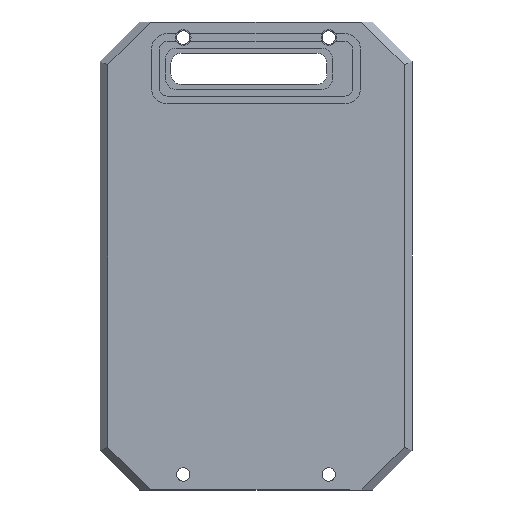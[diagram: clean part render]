
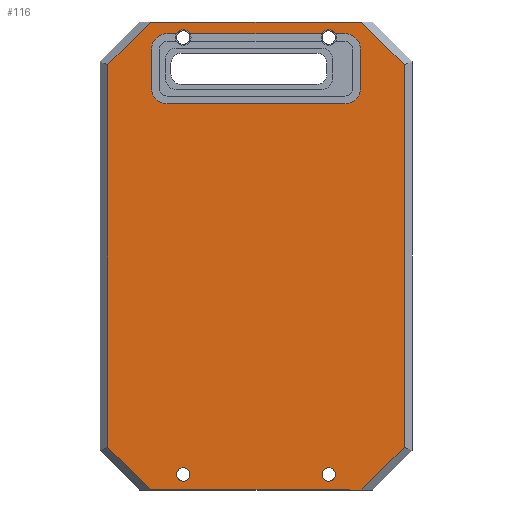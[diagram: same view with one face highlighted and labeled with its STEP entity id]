
A CAD part, front view. The second image highlights one B-rep face of the part: STEP entity #116.
In plain terms, the highlighted planar face has unit normal (0, -1, 0).
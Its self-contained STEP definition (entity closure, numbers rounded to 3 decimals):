
#116=ADVANCED_FACE('',(#414,#415,#416,#265),#1413,.T.);
#265=FACE_OUTER_BOUND('',#428,.F.);
#414=FACE_BOUND('',#425,.F.);
#415=FACE_BOUND('',#426,.F.);
#416=FACE_BOUND('',#427,.F.);
#425=EDGE_LOOP('',(#643,#644));
#426=EDGE_LOOP('',(#645,#646));
#427=EDGE_LOOP('',(#647,#648,#649,#650,#651,#652,#653,#654,#655,#656,#657,
#658));
#428=EDGE_LOOP('',(#659,#660,#661,#662,#663,#664,#665,#666));
#643=ORIENTED_EDGE('',*,*,#2155,.T.);
#644=ORIENTED_EDGE('',*,*,#2154,.T.);
#645=ORIENTED_EDGE('',*,*,#2157,.T.);
#646=ORIENTED_EDGE('',*,*,#2156,.T.);
#647=ORIENTED_EDGE('',*,*,#2058,.T.);
#648=ORIENTED_EDGE('',*,*,#2068,.T.);
#649=ORIENTED_EDGE('',*,*,#2066,.T.);
#650=ORIENTED_EDGE('',*,*,#2070,.T.);
#651=ORIENTED_EDGE('',*,*,#2067,.T.);
#652=ORIENTED_EDGE('',*,*,#2065,.T.);
#653=ORIENTED_EDGE('',*,*,#2064,.T.);
#654=ORIENTED_EDGE('',*,*,#2063,.T.);
#655=ORIENTED_EDGE('',*,*,#2062,.T.);
#656=ORIENTED_EDGE('',*,*,#2061,.T.);
#657=ORIENTED_EDGE('',*,*,#2060,.T.);
#658=ORIENTED_EDGE('',*,*,#2059,.T.);
#659=ORIENTED_EDGE('',*,*,#2187,.T.);
#660=ORIENTED_EDGE('',*,*,#2224,.T.);
#661=ORIENTED_EDGE('',*,*,#2189,.T.);
#662=ORIENTED_EDGE('',*,*,#2178,.T.);
#663=ORIENTED_EDGE('',*,*,#2176,.T.);
#664=ORIENTED_EDGE('',*,*,#2223,.T.);
#665=ORIENTED_EDGE('',*,*,#2182,.T.);
#666=ORIENTED_EDGE('',*,*,#2184,.T.);
#1413=PLANE('',#3020);
#1506=LINE('',#4313,#1778);
#1507=LINE('',#4315,#1779);
#1508=LINE('',#4317,#1780);
#1509=LINE('',#4319,#1781);
#1510=LINE('',#4321,#1782);
#1511=LINE('',#4322,#1783);
#1552=LINE('',#4431,#1824);
#1554=LINE('',#4433,#1826);
#1558=LINE('',#4437,#1830);
#1560=LINE('',#4439,#1832);
#1563=LINE('',#4442,#1835);
#1565=LINE('',#4444,#1837);
#1591=LINE('',#4478,#1863);
#1592=LINE('',#4479,#1864);
#1778=VECTOR('',#3192,1.801);
#1779=VECTOR('',#3195,7.5);
#1780=VECTOR('',#3198,34.2);
#1781=VECTOR('',#3201,7.5);
#1782=VECTOR('',#3204,25.402);
#1783=VECTOR('',#3205,1.801);
#1824=VECTOR('',#3382,11.655);
#1826=VECTOR('',#3384,73.517);
#1830=VECTOR('',#3388,11.655);
#1832=VECTOR('',#3390,73.517);
#1835=VECTOR('',#3393,11.655);
#1837=VECTOR('',#3395,11.655);
#1863=VECTOR('',#3437,40.517);
#1864=VECTOR('',#3438,40.517);
#2058=EDGE_CURVE('',#2855,#2854,#1506,.T.);
#2059=EDGE_CURVE('',#2853,#2855,#2468,.T.);
#2060=EDGE_CURVE('',#2852,#2853,#1507,.T.);
#2061=EDGE_CURVE('',#2851,#2852,#2469,.T.);
#2062=EDGE_CURVE('',#2850,#2851,#1508,.T.);
#2063=EDGE_CURVE('',#2849,#2850,#2470,.T.);
#2064=EDGE_CURVE('',#2848,#2849,#1509,.T.);
#2065=EDGE_CURVE('',#2847,#2848,#2471,.T.);
#2066=EDGE_CURVE('',#2846,#2845,#1510,.T.);
#2067=EDGE_CURVE('',#2844,#2847,#1511,.T.);
#2068=EDGE_CURVE('',#2854,#2846,#2472,.T.);
#2070=EDGE_CURVE('',#2845,#2844,#2474,.T.);
#2154=EDGE_CURVE('',#2759,#2758,#2528,.T.);
#2155=EDGE_CURVE('',#2758,#2759,#2529,.T.);
#2156=EDGE_CURVE('',#2757,#2756,#2530,.T.);
#2157=EDGE_CURVE('',#2756,#2757,#2531,.T.);
#2176=EDGE_CURVE('',#2739,#2737,#1552,.T.);
#2178=EDGE_CURVE('',#2735,#2739,#1554,.T.);
#2182=EDGE_CURVE('',#2730,#2732,#1558,.T.);
#2184=EDGE_CURVE('',#2732,#2728,#1560,.T.);
#2187=EDGE_CURVE('',#2728,#2727,#1563,.T.);
#2189=EDGE_CURVE('',#2724,#2735,#1565,.T.);
#2223=EDGE_CURVE('',#2737,#2730,#1591,.T.);
#2224=EDGE_CURVE('',#2727,#2724,#1592,.T.);
#2468=CIRCLE('',#2882,3.);
#2469=CIRCLE('',#2883,3.);
#2470=CIRCLE('',#2884,3.);
#2471=CIRCLE('',#2885,3.);
#2472=CIRCLE('',#2886,1.5);
#2474=CIRCLE('',#2888,1.5);
#2528=CIRCLE('',#2942,1.3);
#2529=CIRCLE('',#2943,1.3);
#2530=CIRCLE('',#2944,1.3);
#2531=CIRCLE('',#2945,1.3);
#2724=VERTEX_POINT('',#4151);
#2727=VERTEX_POINT('',#4154);
#2728=VERTEX_POINT('',#4155);
#2730=VERTEX_POINT('',#4157);
#2732=VERTEX_POINT('',#4159);
#2735=VERTEX_POINT('',#4162);
#2737=VERTEX_POINT('',#4164);
#2739=VERTEX_POINT('',#4166);
#2756=VERTEX_POINT('',#4183);
#2757=VERTEX_POINT('',#4184);
#2758=VERTEX_POINT('',#4185);
#2759=VERTEX_POINT('',#4186);
#2844=VERTEX_POINT('',#4271);
#2845=VERTEX_POINT('',#4272);
#2846=VERTEX_POINT('',#4273);
#2847=VERTEX_POINT('',#4274);
#2848=VERTEX_POINT('',#4275);
#2849=VERTEX_POINT('',#4276);
#2850=VERTEX_POINT('',#4277);
#2851=VERTEX_POINT('',#4278);
#2852=VERTEX_POINT('',#4279);
#2853=VERTEX_POINT('',#4280);
#2854=VERTEX_POINT('',#4281);
#2855=VERTEX_POINT('',#4282);
#2882=AXIS2_PLACEMENT_3D('',#4314,#3193,#3194);
#2883=AXIS2_PLACEMENT_3D('',#4316,#3196,#3197);
#2884=AXIS2_PLACEMENT_3D('',#4318,#3199,#3200);
#2885=AXIS2_PLACEMENT_3D('',#4320,#3202,#3203);
#2886=AXIS2_PLACEMENT_3D('',#4323,#3206,#3207);
#2888=AXIS2_PLACEMENT_3D('',#4325,#3210,#3211);
#2942=AXIS2_PLACEMENT_3D('',#4409,#3348,#3349);
#2943=AXIS2_PLACEMENT_3D('',#4410,#3350,#3351);
#2944=AXIS2_PLACEMENT_3D('',#4411,#3352,#3353);
#2945=AXIS2_PLACEMENT_3D('',#4412,#3354,#3355);
#3020=AXIS2_PLACEMENT_3D('',#4717,#3734,#3735);
#3192=DIRECTION('',(-1.,0.,0.));
#3193=DIRECTION('',(0.,-1.,0.));
#3194=DIRECTION('',(1.,0.,0.));
#3195=DIRECTION('',(0.,0.,1.));
#3196=DIRECTION('',(0.,-1.,0.));
#3197=DIRECTION('',(0.,0.,-1.));
#3198=DIRECTION('',(1.,0.,0.));
#3199=DIRECTION('',(0.,-1.,0.));
#3200=DIRECTION('',(-1.,0.,0.));
#3201=DIRECTION('',(0.,0.,-1.));
#3202=DIRECTION('',(0.,-1.,0.));
#3203=DIRECTION('',(0.,0.,1.));
#3204=DIRECTION('',(-1.,0.,0.));
#3205=DIRECTION('',(-1.,0.,0.));
#3206=DIRECTION('',(0.,-1.,0.));
#3207=DIRECTION('',(0.866,0.,0.5));
#3210=DIRECTION('',(0.,-1.,0.));
#3211=DIRECTION('',(0.866,0.,0.5));
#3348=DIRECTION('',(0.,-1.,0.));
#3349=DIRECTION('',(0.,0.,-1.));
#3350=DIRECTION('',(0.,-1.,0.));
#3351=DIRECTION('',(0.,0.,1.));
#3352=DIRECTION('',(0.,-1.,0.));
#3353=DIRECTION('',(0.,0.,-1.));
#3354=DIRECTION('',(0.,-1.,0.));
#3355=DIRECTION('',(0.,0.,1.));
#3382=DIRECTION('',(0.707,0.,0.707));
#3384=DIRECTION('',(0.,0.,1.));
#3388=DIRECTION('',(0.707,0.,-0.707));
#3390=DIRECTION('',(0.,0.,-1.));
#3393=DIRECTION('',(-0.707,0.,-0.707));
#3395=DIRECTION('',(-0.707,0.,0.707));
#3437=DIRECTION('',(1.,0.,0.));
#3438=DIRECTION('',(-1.,0.,0.));
#3734=DIRECTION('',(0.,-1.,0.));
#3735=DIRECTION('',(-1.,0.,0.));
#4151=CARTESIAN_POINT('',(-15.502,119.805,-65.027));
#4154=CARTESIAN_POINT('',(25.015,119.805,-65.027));
#4155=CARTESIAN_POINT('',(33.257,119.805,-56.786));
#4157=CARTESIAN_POINT('',(25.015,119.805,24.973));
#4159=CARTESIAN_POINT('',(33.257,119.805,16.732));
#4162=CARTESIAN_POINT('',(-23.743,119.805,-56.786));
#4164=CARTESIAN_POINT('',(-15.502,119.805,24.973));
#4166=CARTESIAN_POINT('',(-23.743,119.805,16.732));
#4183=CARTESIAN_POINT('',(-9.243,119.805,-60.727));
#4184=CARTESIAN_POINT('',(-9.243,119.805,-63.327));
#4185=CARTESIAN_POINT('',(18.757,119.805,-60.727));
#4186=CARTESIAN_POINT('',(18.757,119.805,-63.327));
#4271=CARTESIAN_POINT('',(-10.542,119.805,22.723));
#4272=CARTESIAN_POINT('',(-7.944,119.805,22.723));
#4273=CARTESIAN_POINT('',(17.458,119.805,22.723));
#4274=CARTESIAN_POINT('',(-12.343,119.805,22.723));
#4275=CARTESIAN_POINT('',(-15.343,119.805,19.723));
#4276=CARTESIAN_POINT('',(-15.343,119.805,12.223));
#4277=CARTESIAN_POINT('',(-12.343,119.805,9.223));
#4278=CARTESIAN_POINT('',(21.857,119.805,9.223));
#4279=CARTESIAN_POINT('',(24.857,119.805,12.223));
#4280=CARTESIAN_POINT('',(24.857,119.805,19.723));
#4281=CARTESIAN_POINT('',(20.056,119.805,22.723));
#4282=CARTESIAN_POINT('',(21.857,119.805,22.723));
#4313=CARTESIAN_POINT('',(21.857,119.805,22.723));
#4314=CARTESIAN_POINT('',(21.857,119.805,19.723));
#4315=CARTESIAN_POINT('',(24.857,119.805,12.223));
#4316=CARTESIAN_POINT('',(21.857,119.805,12.223));
#4317=CARTESIAN_POINT('',(-12.343,119.805,9.223));
#4318=CARTESIAN_POINT('',(-12.343,119.805,12.223));
#4319=CARTESIAN_POINT('',(-15.343,119.805,19.723));
#4320=CARTESIAN_POINT('',(-12.343,119.805,19.723));
#4321=CARTESIAN_POINT('',(17.458,119.805,22.723));
#4322=CARTESIAN_POINT('',(-10.542,119.805,22.723));
#4323=CARTESIAN_POINT('',(18.757,119.805,21.973));
#4325=CARTESIAN_POINT('',(-9.243,119.805,21.973));
#4409=CARTESIAN_POINT('',(18.757,119.805,-62.027));
#4410=CARTESIAN_POINT('',(18.757,119.805,-62.027));
#4411=CARTESIAN_POINT('',(-9.243,119.805,-62.027));
#4412=CARTESIAN_POINT('',(-9.243,119.805,-62.027));
#4431=CARTESIAN_POINT('',(-23.743,119.805,16.732));
#4433=CARTESIAN_POINT('',(-23.743,119.805,-56.786));
#4437=CARTESIAN_POINT('',(25.015,119.805,24.973));
#4439=CARTESIAN_POINT('',(33.257,119.805,16.732));
#4442=CARTESIAN_POINT('',(33.257,119.805,-56.786));
#4444=CARTESIAN_POINT('',(-15.502,119.805,-65.027));
#4478=CARTESIAN_POINT('',(-15.502,119.805,24.973));
#4479=CARTESIAN_POINT('',(25.015,119.805,-65.027));
#4717=CARTESIAN_POINT('',(35.657,119.805,25.873));
